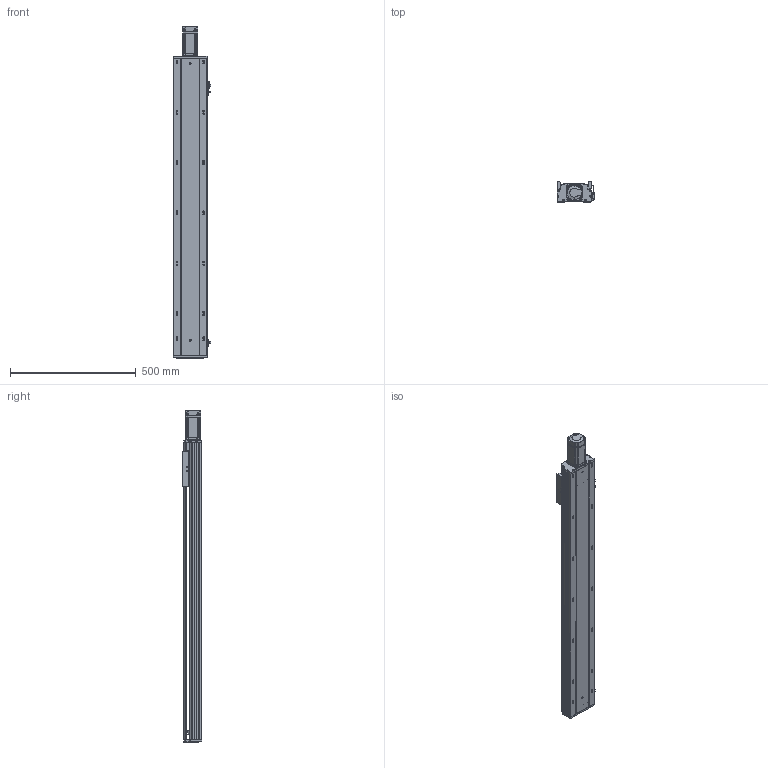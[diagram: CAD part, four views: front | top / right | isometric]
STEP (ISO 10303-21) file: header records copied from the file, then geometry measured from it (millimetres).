
FILE_DESCRIPTION (( 'STEP AP203' ), '1' );
FILE_NAME ('RY140Q-L2010-700-MK.SLDASM_0950.step', '2021-05-27T03:22:42', ( '盈信电脑' ), ( '东莞市道滘镇水果街19号' ), 'SwSTEP 2.0', 'SolidWorks 2016', '' );
FILE_SCHEMA (( 'CONFIG_CONTROL_DESIGN' ));
Length unit declared in the file: millimetre
Products named in the file (14): 鞠褒坶踡蹟譫BK12 ; RY140Q-700-MK倰第奻裔啣_0950; 15; 滅袉蝶18-10; RY140ヶ裔啣; RY140Q萇儂傷盓傅釱FK12(80.5酗M5); 滅袉蝶18-15; 覜茼ん672; RY140Q-700-MK倰第菁釱_0950; RY120外置感应片(140共用）; RY140Q-L2010-700-MK.SLDASM_0950; RY140綴裔啣; RY140Q臏賑輸(20佪裝-J); 侂狟400W侜督萇儂
Assembly tree (16 placements, depth 3):
  RY140Q-L2010-700-MK.SLDASM_0950
    RY140Q-700-MK倰第菁釱_0950
    RY140Q臏賑輸(20佪裝-J)
    RY140Q-700-MK倰第奻裔啣_0950
    RY140ヶ裔啣
    侂狟400W侜督萇儂
      15
    鞠褒坶踡蹟譫BK12 
    RY140綴裔啣
    覜茼ん672  x3
    RY120外置感应片(140共用）
    RY140Q萇儂傷盓傅釱FK12(80.5酗M5)
    滅袉蝶18-10
    滅袉蝶18-15  x2
Bounding box: 148.7 x 78 x 1319.5 mm (x, y, z)
Volume: 3722845.1 mm3; surface area: 1357368 mm2
Topology: 15 solids, 15 shells, 2141 faces, 5916 edges, 3779 vertices
Faces by surface type: plane 1090, cylinder 754, cone 212, bspline 85
Entity records: 70735 total; most frequent: CARTESIAN_POINT 16956, ORIENTED_EDGE 11100, DIRECTION 10568, EDGE_CURVE 5550, VERTEX_POINT 3639, LINE 3544, VECTOR 3544, AXIS2_PLACEMENT_3D 3512
